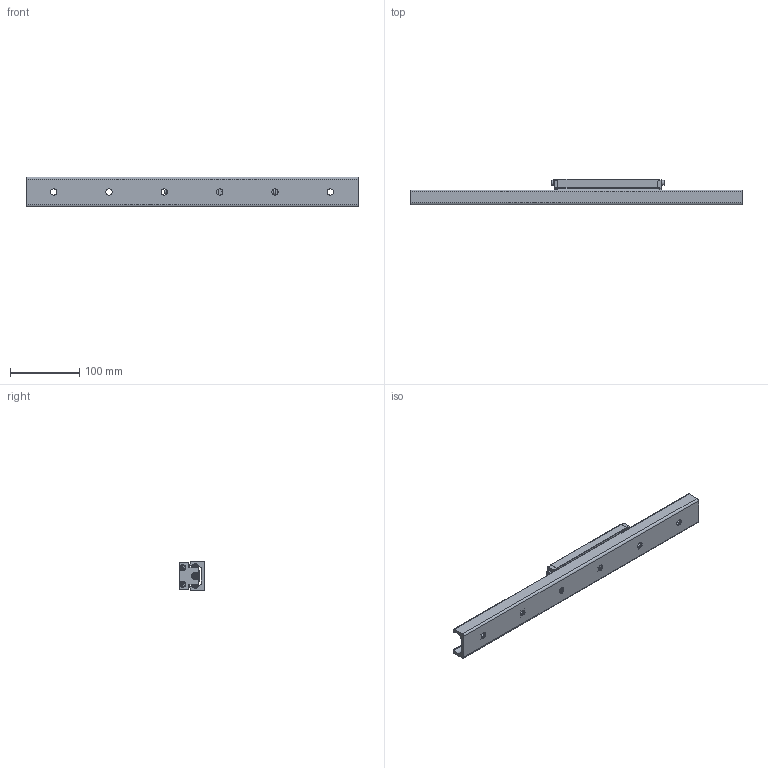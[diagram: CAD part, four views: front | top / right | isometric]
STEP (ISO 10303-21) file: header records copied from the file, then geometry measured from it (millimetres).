
FILE_DESCRIPTION(/* description */ ('STEP AP214'),/* implementation_level */ '2;1');
FILE_NAME(/* name */ 'AWG43RA1SS+480L(2000)',/* time_stamp */ '2024-10-17T13:43:46+02:00',/* author */ ('License CC BY-ND 4.0'),/* organization */ ('CADENAS'),/* preprocessor_version */ 'ST-DEVELOPER v19.3',/* originating_system */ 'PARTsolutions',/* authorisation */ ' ');
FILE_SCHEMA (('AUTOMOTIVE_DESIGN {1 0 10303 214 3 1 1}'));
Length unit declared in the file: millimetre
Products named in the file (5): AWG43RA1SS+480L(2000); AWG43RA1SS+480L A-M6F 200 0_rail; AWG43RA1SS+480L_carriage; AWG43RA_SSL_seal; AWG-RA_A-M6F_grease_nipple
Assembly tree (6 placements, depth 2):
  AWG43RA1SS+480L(2000)
    AWG43RA1SS+480L A-M6F 200 0_rail
    AWG43RA1SS+480L_carriage
    AWG43RA_SSL_seal  x2
    AWG-RA_A-M6F_grease_nipple  x2
Bounding box: 480 x 37 x 43 mm (x, y, z)
Volume: 310564.2 mm3; surface area: 124010.3 mm2
Topology: 6 solids, 12 shells, 899 faces, 2259 edges, 1453 vertices
Faces by surface type: plane 452, cylinder 298, cone 86, torus 51, sphere 8, bspline 4
Full cylindrical faces by diameter (mm): 2 x4, 3.7 x2, 4 x4, 4.2 x4, 4.92 x3, 5.19 x2, 6 x5, 6.5 x5, 6.6 x3, 6.647 x4, 7 x4, 9 x12, 9.9 x2, 10 x6, 11 x3, 13 x3, 14 x9, 16.5 x5
Entity records: 21939 total; most frequent: CARTESIAN_POINT 4187, DIRECTION 3741, ORIENTED_EDGE 3468, EDGE_CURVE 1734, AXIS2_PLACEMENT_3D 1410, VERTEX_POINT 1193, FACE_BOUND 965, EDGE_LOOP 960
